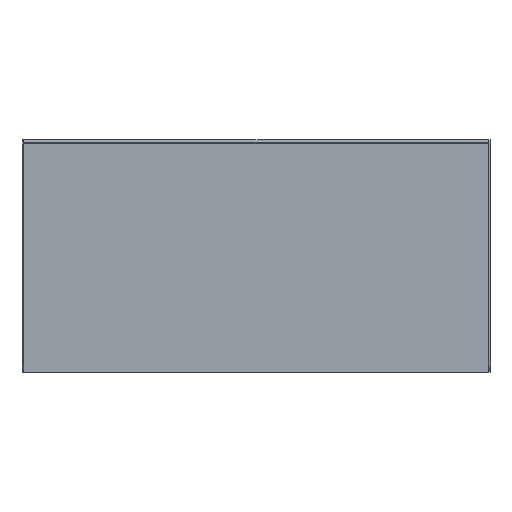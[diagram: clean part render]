
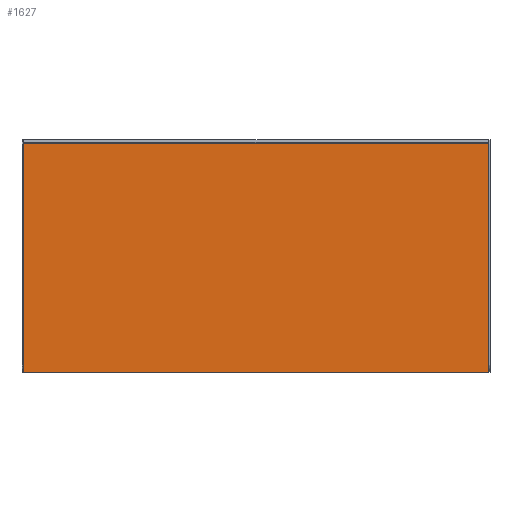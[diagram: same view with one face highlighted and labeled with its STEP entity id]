
A CAD part, front view. The second image highlights one B-rep face of the part: STEP entity #1627.
In plain terms, the highlighted planar face has unit normal (0, -1, 0).
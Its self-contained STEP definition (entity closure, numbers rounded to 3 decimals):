
#49 = CARTESIAN_POINT ( 'NONE',  ( 697., -17.5, 347. ) ) ;
#105 = VERTEX_POINT ( 'NONE', #996 ) ;
#135 = DIRECTION ( 'NONE',  ( -1., 0., 0. ) ) ;
#165 = VECTOR ( 'NONE', #1018, 1000. ) ;
#212 = CARTESIAN_POINT ( 'NONE',  ( 697., -17.5, 347. ) ) ;
#216 = EDGE_CURVE ( 'NONE', #1164, #1438, #1233, .T. ) ;
#229 = ORIENTED_EDGE ( 'NONE', *, *, #776, .F. ) ;
#243 = LINE ( 'NONE', #1399, #413 ) ;
#304 = PLANE ( 'NONE',  #1690 ) ;
#413 = VECTOR ( 'NONE', #135, 1000. ) ;
#508 = CARTESIAN_POINT ( 'NONE',  ( -697., -17.5, 347. ) ) ;
#572 = VECTOR ( 'NONE', #1068, 1000. ) ;
#607 = VECTOR ( 'NONE', #1546, 1000. ) ;
#673 = EDGE_LOOP ( 'NONE', ( #1440, #1254, #1299, #229 ) ) ;
#694 = EDGE_CURVE ( 'NONE', #1175, #105, #1124, .T. ) ;
#727 = CARTESIAN_POINT ( 'NONE',  ( -697., -17.5, -347. ) ) ;
#776 = EDGE_CURVE ( 'NONE', #1438, #1175, #243, .T. ) ;
#798 = FACE_OUTER_BOUND ( 'NONE', #673, .T. ) ;
#850 = EDGE_CURVE ( 'NONE', #105, #1164, #879, .T. ) ;
#879 = LINE ( 'NONE', #508, #165 ) ;
#996 = CARTESIAN_POINT ( 'NONE',  ( -697., -17.5, 347. ) ) ;
#1018 = DIRECTION ( 'NONE',  ( 1., 0., 0. ) ) ;
#1068 = DIRECTION ( 'NONE',  ( 0., 0., -1. ) ) ;
#1096 = CARTESIAN_POINT ( 'NONE',  ( 697., -17.5, -347. ) ) ;
#1124 = LINE ( 'NONE', #1261, #607 ) ;
#1164 = VERTEX_POINT ( 'NONE', #212 ) ;
#1175 = VERTEX_POINT ( 'NONE', #727 ) ;
#1199 = CARTESIAN_POINT ( 'NONE',  ( 0., -17.5, 0. ) ) ;
#1233 = LINE ( 'NONE', #49, #572 ) ;
#1254 = ORIENTED_EDGE ( 'NONE', *, *, #850, .F. ) ;
#1261 = CARTESIAN_POINT ( 'NONE',  ( -697., -17.5, 347. ) ) ;
#1299 = ORIENTED_EDGE ( 'NONE', *, *, #694, .F. ) ;
#1399 = CARTESIAN_POINT ( 'NONE',  ( -697., -17.5, -347. ) ) ;
#1438 = VERTEX_POINT ( 'NONE', #1096 ) ;
#1440 = ORIENTED_EDGE ( 'NONE', *, *, #216, .F. ) ;
#1488 = DIRECTION ( 'NONE',  ( 0., -1., 0. ) ) ;
#1546 = DIRECTION ( 'NONE',  ( 0., 0., 1. ) ) ;
#1627 = ADVANCED_FACE ( 'NONE', ( #798 ), #304, .T. ) ;
#1637 = DIRECTION ( 'NONE',  ( 0., 0., -1. ) ) ;
#1690 = AXIS2_PLACEMENT_3D ( 'NONE', #1199, #1488, #1637 ) ;
